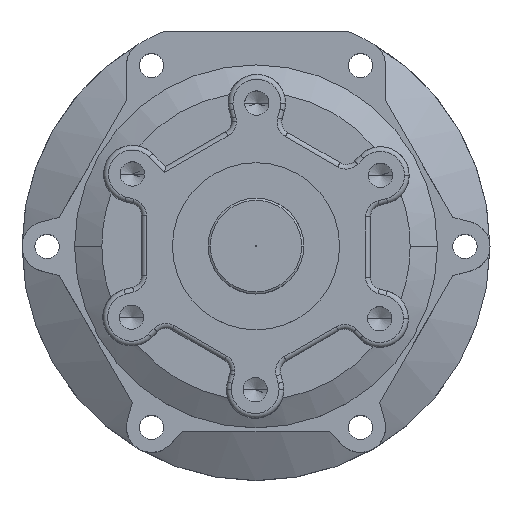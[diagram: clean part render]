
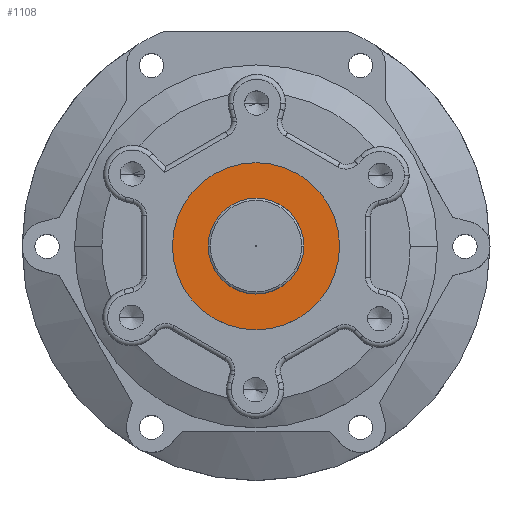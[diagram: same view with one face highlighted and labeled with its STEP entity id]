
A CAD part, top view. The second image highlights one B-rep face of the part: STEP entity #1108.
In plain terms, the highlighted planar face has unit normal (0, 0, 1).
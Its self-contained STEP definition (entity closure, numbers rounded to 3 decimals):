
#1108 = ADVANCED_FACE ( 'NONE', ( #3035, #7970 ), #8262, .T. ) ;
#1175 = EDGE_CURVE ( 'NONE', #8320, #4139, #9323, .T. ) ;
#1551 = CIRCLE ( 'NONE', #2618, 35. ) ;
#1675 = CARTESIAN_POINT ( 'NONE',  ( 0., 0., 89. ) ) ;
#2064 = CARTESIAN_POINT ( 'NONE',  ( 0., 0., 89. ) ) ;
#2114 = DIRECTION ( 'NONE',  ( 1., 0., 0. ) ) ;
#2461 = CIRCLE ( 'NONE', #10139, 20. ) ;
#2543 = CARTESIAN_POINT ( 'NONE',  ( -35., 0., 89. ) ) ;
#2618 = AXIS2_PLACEMENT_3D ( 'NONE', #2064, #6928, #2114 ) ;
#3035 = FACE_OUTER_BOUND ( 'NONE', #8300, .T. ) ;
#3239 = DIRECTION ( 'NONE',  ( 1., 0., 0. ) ) ;
#3886 = CARTESIAN_POINT ( 'NONE',  ( 0., 0., 89. ) ) ;
#3982 = CIRCLE ( 'NONE', #9024, 20. ) ;
#4139 = VERTEX_POINT ( 'NONE', #2543 ) ;
#4154 = DIRECTION ( 'NONE',  ( 1., 0., 0. ) ) ;
#4203 = CARTESIAN_POINT ( 'NONE',  ( 0., 0., 89. ) ) ;
#5969 = CARTESIAN_POINT ( 'NONE',  ( -20., 0., 89. ) ) ;
#6737 = EDGE_CURVE ( 'NONE', #7517, #11809, #3982, .T. ) ;
#6928 = DIRECTION ( 'NONE',  ( 0., 0., 1. ) ) ;
#7517 = VERTEX_POINT ( 'NONE', #5969 ) ;
#7893 = DIRECTION ( 'NONE',  ( 1., 0., 0. ) ) ;
#7970 = FACE_BOUND ( 'NONE', #14484, .T. ) ;
#8262 = PLANE ( 'NONE',  #15416 ) ;
#8300 = EDGE_LOOP ( 'NONE', ( #10009, #12374 ) ) ;
#8320 = VERTEX_POINT ( 'NONE', #16228 ) ;
#8680 = EDGE_CURVE ( 'NONE', #4139, #8320, #1551, .T. ) ;
#9024 = AXIS2_PLACEMENT_3D ( 'NONE', #4203, #11704, #7893 ) ;
#9323 = CIRCLE ( 'NONE', #13543, 35. ) ;
#9504 = DIRECTION ( 'NONE',  ( 0., 0., 1. ) ) ;
#10009 = ORIENTED_EDGE ( 'NONE', *, *, #8680, .T. ) ;
#10139 = AXIS2_PLACEMENT_3D ( 'NONE', #1675, #11714, #4154 ) ;
#10146 = DIRECTION ( 'NONE',  ( 0., 0., 1. ) ) ;
#10235 = ORIENTED_EDGE ( 'NONE', *, *, #6737, .F. ) ;
#11314 = EDGE_CURVE ( 'NONE', #11809, #7517, #2461, .T. ) ;
#11704 = DIRECTION ( 'NONE',  ( 0., 0., 1. ) ) ;
#11714 = DIRECTION ( 'NONE',  ( 0., 0., 1. ) ) ;
#11809 = VERTEX_POINT ( 'NONE', #11856 ) ;
#11856 = CARTESIAN_POINT ( 'NONE',  ( 20., 0., 89. ) ) ;
#12374 = ORIENTED_EDGE ( 'NONE', *, *, #1175, .T. ) ;
#12685 = DIRECTION ( 'NONE',  ( 1., 0., 0. ) ) ;
#13196 = CARTESIAN_POINT ( 'NONE',  ( 0., 0., 89. ) ) ;
#13486 = ORIENTED_EDGE ( 'NONE', *, *, #11314, .F. ) ;
#13543 = AXIS2_PLACEMENT_3D ( 'NONE', #3886, #10146, #12685 ) ;
#14484 = EDGE_LOOP ( 'NONE', ( #13486, #10235 ) ) ;
#15416 = AXIS2_PLACEMENT_3D ( 'NONE', #13196, #9504, #3239 ) ;
#16228 = CARTESIAN_POINT ( 'NONE',  ( 35., 0., 89. ) ) ;
